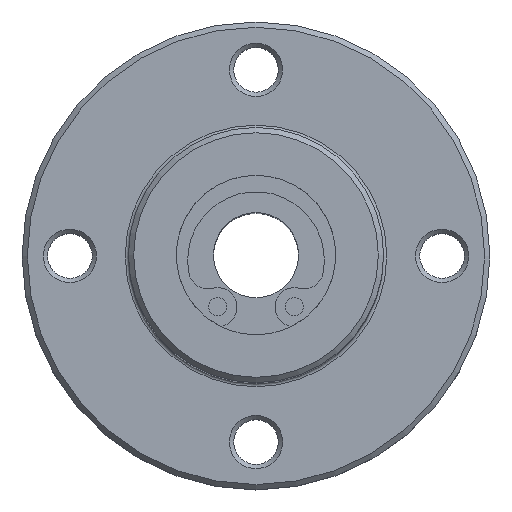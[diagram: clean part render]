
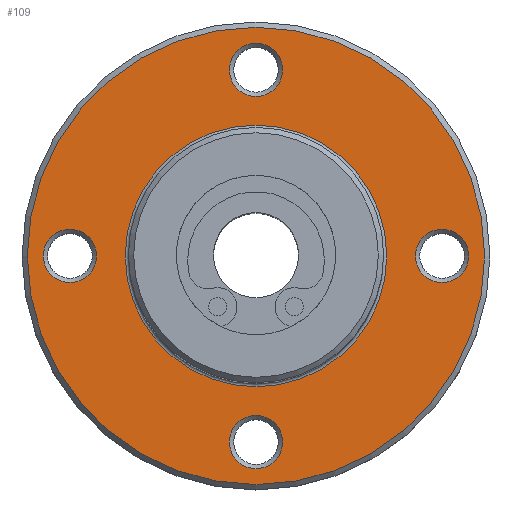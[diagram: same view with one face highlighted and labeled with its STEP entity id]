
A CAD part, top view. The second image highlights one B-rep face of the part: STEP entity #109.
In plain terms, the highlighted planar face has unit normal (0, 0, 1).
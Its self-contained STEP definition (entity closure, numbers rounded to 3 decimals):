
#109=ADVANCED_FACE('',(#229,#230,#231,#232,#233,#234),#235,.T.);
#229=FACE_BOUND('',#385,.T.);
#230=FACE_BOUND('',#386,.T.);
#231=FACE_BOUND('',#387,.T.);
#232=FACE_BOUND('',#388,.T.);
#233=FACE_BOUND('',#389,.T.);
#234=FACE_OUTER_BOUND('',#390,.T.);
#235=PLANE('',#391);
#385=EDGE_LOOP('',(#663));
#386=EDGE_LOOP('',(#664));
#387=EDGE_LOOP('',(#665));
#388=EDGE_LOOP('',(#666));
#389=EDGE_LOOP('',(#667));
#390=EDGE_LOOP('',(#668));
#391=AXIS2_PLACEMENT_3D('',#669,#670,#671);
#663=ORIENTED_EDGE('',*,*,#889,.T.);
#664=ORIENTED_EDGE('',*,*,#872,.T.);
#665=ORIENTED_EDGE('',*,*,#881,.T.);
#666=ORIENTED_EDGE('',*,*,#887,.T.);
#667=ORIENTED_EDGE('',*,*,#880,.F.);
#668=ORIENTED_EDGE('',*,*,#878,.T.);
#669=CARTESIAN_POINT('',(0.0,16.9,7.0));
#670=DIRECTION('',(0.,0.0,1.0));
#671=DIRECTION('',(1.0,0.0,0.));
#872=EDGE_CURVE('',#1024,#1024,#1025,.T.);
#878=EDGE_CURVE('',#1036,#1036,#1037,.T.);
#880=EDGE_CURVE('',#1040,#1040,#1041,.T.);
#881=EDGE_CURVE('',#1042,#1042,#1043,.T.);
#887=EDGE_CURVE('',#1054,#1054,#1055,.T.);
#889=EDGE_CURVE('',#1058,#1058,#1059,.T.);
#1024=VERTEX_POINT('',#1220);
#1025=CIRCLE('',#1221,2.5);
#1036=VERTEX_POINT('',#1232);
#1037=CIRCLE('',#1233,21.5);
#1040=VERTEX_POINT('',#1236);
#1041=CIRCLE('',#1237,12.3);
#1042=VERTEX_POINT('',#1238);
#1043=CIRCLE('',#1239,2.5);
#1054=VERTEX_POINT('',#1250);
#1055=CIRCLE('',#1251,2.5);
#1058=VERTEX_POINT('',#1254);
#1059=CIRCLE('',#1255,2.5);
#1220=CARTESIAN_POINT('',(-2.5,17.5,7.0));
#1221=AXIS2_PLACEMENT_3D('',#1438,#1439,#1440);
#1232=CARTESIAN_POINT('',(0.0,21.5,7.0));
#1233=AXIS2_PLACEMENT_3D('',#1456,#1457,#1458);
#1236=CARTESIAN_POINT('',(0.0,12.3,7.0));
#1237=AXIS2_PLACEMENT_3D('',#1462,#1463,#1464);
#1238=CARTESIAN_POINT('',(-20.0,0.,7.0));
#1239=AXIS2_PLACEMENT_3D('',#1465,#1466,#1467);
#1250=CARTESIAN_POINT('',(-2.5,-17.5,7.0));
#1251=AXIS2_PLACEMENT_3D('',#1483,#1484,#1485);
#1254=CARTESIAN_POINT('',(15.0,0.,7.0));
#1255=AXIS2_PLACEMENT_3D('',#1489,#1490,#1491);
#1438=CARTESIAN_POINT('',(0.0,17.5,7.0));
#1439=DIRECTION('',(0.0,0.0,-1.0));
#1440=DIRECTION('',(1.0,0.0,0.0));
#1456=CARTESIAN_POINT('',(0.0,0.0,7.0));
#1457=DIRECTION('',(0.,-0.0,1.0));
#1458=DIRECTION('',(0.0,1.0,0.0));
#1462=CARTESIAN_POINT('',(0.0,0.0,7.0));
#1463=DIRECTION('',(0.,-0.0,1.0));
#1464=DIRECTION('',(0.0,1.0,0.0));
#1465=CARTESIAN_POINT('',(-17.5,0.0,7.0));
#1466=DIRECTION('',(0.0,0.0,-1.0));
#1467=DIRECTION('',(1.0,0.0,0.0));
#1483=CARTESIAN_POINT('',(0.0,-17.5,7.0));
#1484=DIRECTION('',(0.0,0.0,-1.0));
#1485=DIRECTION('',(1.0,0.0,0.0));
#1489=CARTESIAN_POINT('',(17.5,0.0,7.0));
#1490=DIRECTION('',(0.0,0.0,-1.0));
#1491=DIRECTION('',(1.0,0.0,0.0));
